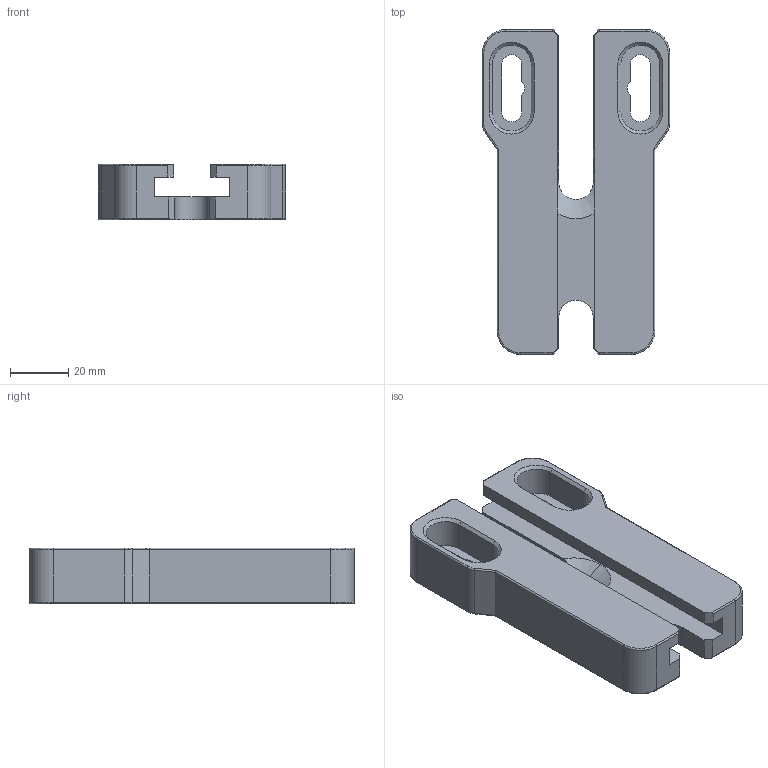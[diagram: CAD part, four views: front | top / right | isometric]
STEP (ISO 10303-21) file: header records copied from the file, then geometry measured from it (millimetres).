
FILE_DESCRIPTION (( 'STEP AP203' ), '1' );
FILE_NAME ('Slide Base (STEP format).STEP', '2015-09-04T08:18:30', ( '' ), ( '' ), 'SwSTEP 2.0', 'SolidWorks 2015', '' );
FILE_SCHEMA (( 'CONFIG_CONTROL_DESIGN' ));
Length unit declared in the file: millimetre
Products named in the file (1): Slide Base (STEP format)
Bounding box: 64 x 111 x 19 mm (x, y, z)
Volume: 76601.2 mm3; surface area: 24719.6 mm2
Topology: 1 solids, 1 shells, 106 faces, 268 edges, 166 vertices
Faces by surface type: plane 48, cylinder 39, torus 12, cone 7
Entity records: 3252 total; most frequent: CARTESIAN_POINT 599, DIRECTION 549, ORIENTED_EDGE 536, EDGE_CURVE 268, AXIS2_PLACEMENT_3D 188, VECTOR 173, LINE 173, VERTEX_POINT 166
